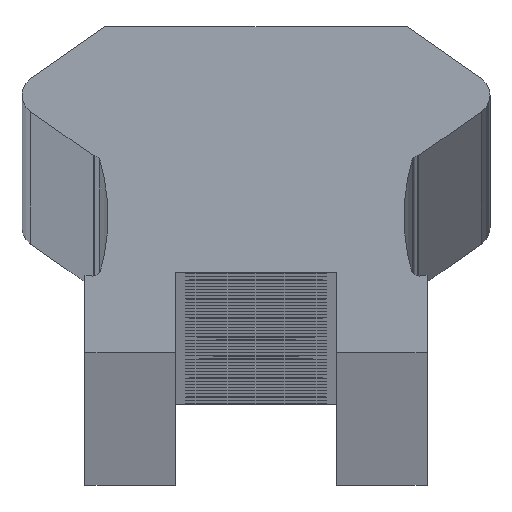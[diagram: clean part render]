
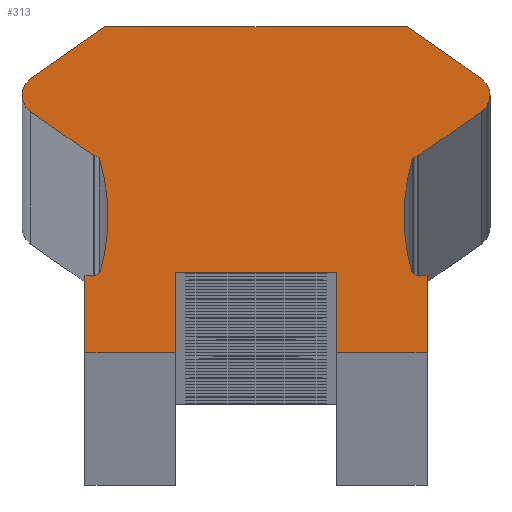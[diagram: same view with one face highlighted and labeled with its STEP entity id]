
A CAD part, top view. The second image highlights one B-rep face of the part: STEP entity #313.
In plain terms, the highlighted planar face has unit normal (0, 0, 1).
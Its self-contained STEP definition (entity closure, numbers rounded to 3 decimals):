
#313=ADVANCED_FACE('',(#918),#919,.T.);
#918=FACE_OUTER_BOUND('',#1524,.T.);
#919=PLANE('',#1525);
#1524=EDGE_LOOP('',(#3362,#3363,#3364,#3365,#3366,#3367,#3368,#3369,#3370,#3371,#3372,#3373,#3374,#3375,#3376,#3377,#3378,#3379,#3380,#3381,#3382,#3383,#3384,#3385,#3386,#3387,#3388,#3389));
#1525=AXIS2_PLACEMENT_3D('',#3390,#3391,#3392);
#3362=ORIENTED_EDGE('',*,*,#3944,.F.);
#3363=ORIENTED_EDGE('',*,*,#4010,.F.);
#3364=ORIENTED_EDGE('',*,*,#3427,.F.);
#3365=ORIENTED_EDGE('',*,*,#4008,.F.);
#3366=ORIENTED_EDGE('',*,*,#4005,.F.);
#3367=ORIENTED_EDGE('',*,*,#4002,.F.);
#3368=ORIENTED_EDGE('',*,*,#3429,.F.);
#3369=ORIENTED_EDGE('',*,*,#4001,.F.);
#3370=ORIENTED_EDGE('',*,*,#3997,.F.);
#3371=ORIENTED_EDGE('',*,*,#3994,.F.);
#3372=ORIENTED_EDGE('',*,*,#3991,.F.);
#3373=ORIENTED_EDGE('',*,*,#3988,.F.);
#3374=ORIENTED_EDGE('',*,*,#3435,.F.);
#3375=ORIENTED_EDGE('',*,*,#3986,.F.);
#3376=ORIENTED_EDGE('',*,*,#3983,.F.);
#3377=ORIENTED_EDGE('',*,*,#3980,.F.);
#3378=ORIENTED_EDGE('',*,*,#3977,.F.);
#3379=ORIENTED_EDGE('',*,*,#3974,.F.);
#3380=ORIENTED_EDGE('',*,*,#3971,.F.);
#3381=ORIENTED_EDGE('',*,*,#3968,.F.);
#3382=ORIENTED_EDGE('',*,*,#3965,.F.);
#3383=ORIENTED_EDGE('',*,*,#3962,.F.);
#3384=ORIENTED_EDGE('',*,*,#3959,.F.);
#3385=ORIENTED_EDGE('',*,*,#3956,.F.);
#3386=ORIENTED_EDGE('',*,*,#3437,.F.);
#3387=ORIENTED_EDGE('',*,*,#3955,.F.);
#3388=ORIENTED_EDGE('',*,*,#3951,.F.);
#3389=ORIENTED_EDGE('',*,*,#3948,.F.);
#3390=CARTESIAN_POINT('',(0.,4.049,1886.0));
#3391=DIRECTION('',(0.0,0.0,1.0));
#3392=DIRECTION('',(1.0,0.0,0.0));
#3427=EDGE_CURVE('',#4017,#4013,#4019,.T.);
#3429=EDGE_CURVE('',#4020,#4023,#4024,.T.);
#3435=EDGE_CURVE('',#4033,#4029,#4035,.T.);
#3437=EDGE_CURVE('',#4036,#4039,#4040,.T.);
#3944=EDGE_CURVE('',#4884,#4885,#4886,.T.);
#3948=EDGE_CURVE('',#4885,#4892,#4893,.T.);
#3951=EDGE_CURVE('',#4892,#4897,#4898,.T.);
#3955=EDGE_CURVE('',#4897,#4036,#4903,.T.);
#3956=EDGE_CURVE('',#4039,#4904,#4905,.T.);
#3959=EDGE_CURVE('',#4904,#4909,#4910,.T.);
#3962=EDGE_CURVE('',#4909,#4914,#4915,.T.);
#3965=EDGE_CURVE('',#4914,#4919,#4920,.T.);
#3968=EDGE_CURVE('',#4919,#4924,#4925,.T.);
#3971=EDGE_CURVE('',#4924,#4929,#4930,.T.);
#3974=EDGE_CURVE('',#4929,#4934,#4935,.T.);
#3977=EDGE_CURVE('',#4934,#4939,#4940,.T.);
#3980=EDGE_CURVE('',#4939,#4944,#4945,.T.);
#3983=EDGE_CURVE('',#4944,#4949,#4950,.T.);
#3986=EDGE_CURVE('',#4949,#4033,#4954,.T.);
#3988=EDGE_CURVE('',#4029,#4956,#4957,.T.);
#3991=EDGE_CURVE('',#4956,#4961,#4962,.T.);
#3994=EDGE_CURVE('',#4961,#4966,#4967,.T.);
#3997=EDGE_CURVE('',#4966,#4971,#4972,.T.);
#4001=EDGE_CURVE('',#4971,#4020,#4977,.T.);
#4002=EDGE_CURVE('',#4023,#4978,#4979,.T.);
#4005=EDGE_CURVE('',#4978,#4983,#4984,.T.);
#4008=EDGE_CURVE('',#4983,#4017,#4988,.T.);
#4010=EDGE_CURVE('',#4013,#4884,#4990,.T.);
#4013=VERTEX_POINT('',#4993);
#4017=VERTEX_POINT('',#4998);
#4019=CIRCLE('',#5001,0.5);
#4020=VERTEX_POINT('',#5002);
#4023=VERTEX_POINT('',#5006);
#4024=CIRCLE('',#5007,0.5);
#4029=VERTEX_POINT('',#5013);
#4033=VERTEX_POINT('',#5018);
#4035=CIRCLE('',#5021,5.045);
#4036=VERTEX_POINT('',#5022);
#4039=VERTEX_POINT('',#5026);
#4040=CIRCLE('',#5027,5.045);
#4884=VERTEX_POINT('',#6040);
#4885=VERTEX_POINT('',#6041);
#4886=LINE('',#6042,#6043);
#4892=VERTEX_POINT('',#6052);
#4893=LINE('',#6053,#6054);
#4897=VERTEX_POINT('',#6060);
#4898=CIRCLE('',#6061,0.158);
#4903=CIRCLE('',#6067,5.045);
#4904=VERTEX_POINT('',#6068);
#4905=CIRCLE('',#6069,0.181);
#4909=VERTEX_POINT('',#6074);
#4910=LINE('',#6075,#6076);
#4914=VERTEX_POINT('',#6082);
#4915=LINE('',#6083,#6084);
#4919=VERTEX_POINT('',#6090);
#4920=LINE('',#6091,#6092);
#4924=VERTEX_POINT('',#6098);
#4925=LINE('',#6099,#6100);
#4929=VERTEX_POINT('',#6106);
#4930=LINE('',#6107,#6108);
#4934=VERTEX_POINT('',#6114);
#4935=LINE('',#6115,#6116);
#4939=VERTEX_POINT('',#6122);
#4940=LINE('',#6123,#6124);
#4944=VERTEX_POINT('',#6130);
#4945=LINE('',#6131,#6132);
#4949=VERTEX_POINT('',#6138);
#4950=LINE('',#6139,#6140);
#4954=CIRCLE('',#6146,0.181);
#4956=VERTEX_POINT('',#6148);
#4957=CIRCLE('',#6149,5.045);
#4961=VERTEX_POINT('',#6154);
#4962=CIRCLE('',#6155,0.158);
#4966=VERTEX_POINT('',#6160);
#4967=LINE('',#6161,#6162);
#4971=VERTEX_POINT('',#6168);
#4972=LINE('',#6169,#6170);
#4977=CIRCLE('',#6177,0.5);
#4978=VERTEX_POINT('',#6178);
#4979=LINE('',#6179,#6180);
#4983=VERTEX_POINT('',#6186);
#4984=LINE('',#6187,#6188);
#4988=LINE('',#6194,#6195);
#4990=CIRCLE('',#6198,0.5);
#4993=CARTESIAN_POINT('',(5.813,6.4,1886.0));
#4998=CARTESIAN_POINT('',(5.6,6.81,1886.0));
#5001=AXIS2_PLACEMENT_3D('',#6205,#6206,#6207);
#5002=CARTESIAN_POINT('',(-5.813,6.4,1886.0));
#5006=CARTESIAN_POINT('',(-5.6,6.81,1886.0));
#5007=AXIS2_PLACEMENT_3D('',#6209,#6210,#6211);
#5013=CARTESIAN_POINT('',(-3.679,3.382,1886.0));
#5018=CARTESIAN_POINT('',(-3.864,2.027,1886.0));
#5021=AXIS2_PLACEMENT_3D('',#6221,#6222,#6223);
#5022=CARTESIAN_POINT('',(3.679,3.382,1886.0));
#5026=CARTESIAN_POINT('',(3.864,2.027,1886.0));
#5027=AXIS2_PLACEMENT_3D('',#6225,#6226,#6227);
#6040=CARTESIAN_POINT('',(5.6,5.99,1886.0));
#6041=CARTESIAN_POINT('',(4.043,4.9,1886.0));
#6042=CARTESIAN_POINT('',(5.6,5.99,1886.0));
#6043=VECTOR('',#7408,1.0);
#6052=CARTESIAN_POINT('',(4.,4.9,1886.0));
#6053=CARTESIAN_POINT('',(4.,4.9,1886.0));
#6054=VECTOR('',#7412,1.0);
#6060=CARTESIAN_POINT('',(3.887,4.817,1886.0));
#6061=AXIS2_PLACEMENT_3D('',#7415,#7416,#7417);
#6067=AXIS2_PLACEMENT_3D('',#7425,#7426,#7427);
#6068=CARTESIAN_POINT('',(4.058,1.905,1886.0));
#6069=AXIS2_PLACEMENT_3D('',#7428,#7429,#7430);
#6074=CARTESIAN_POINT('',(4.25,1.922,1886.0));
#6075=CARTESIAN_POINT('',(4.25,1.922,1886.0));
#6076=VECTOR('',#7435,1.0);
#6082=CARTESIAN_POINT('',(4.25,0.0,1886.0));
#6083=CARTESIAN_POINT('',(4.25,1.922,1886.0));
#6084=VECTOR('',#7438,1.0);
#6090=CARTESIAN_POINT('',(2.0,0.0,1886.0));
#6091=CARTESIAN_POINT('',(2.0,0.0,1886.0));
#6092=VECTOR('',#7441,1.0);
#6098=CARTESIAN_POINT('',(2.0,2.0,1886.0));
#6099=CARTESIAN_POINT('',(2.0,2.0,1886.0));
#6100=VECTOR('',#7444,1.0);
#6106=CARTESIAN_POINT('',(-2.0,2.0,1886.0));
#6107=CARTESIAN_POINT('',(-2.0,2.0,1886.0));
#6108=VECTOR('',#7447,1.0);
#6114=CARTESIAN_POINT('',(-2.0,0.0,1886.0));
#6115=CARTESIAN_POINT('',(-2.0,0.0,1886.0));
#6116=VECTOR('',#7450,1.0);
#6122=CARTESIAN_POINT('',(-4.25,0.0,1886.0));
#6123=CARTESIAN_POINT('',(-4.25,0.0,1886.0));
#6124=VECTOR('',#7453,1.0);
#6130=CARTESIAN_POINT('',(-4.25,1.922,1886.0));
#6131=CARTESIAN_POINT('',(-4.25,1.922,1886.0));
#6132=VECTOR('',#7456,1.0);
#6138=CARTESIAN_POINT('',(-4.058,1.905,1886.0));
#6139=CARTESIAN_POINT('',(-4.25,1.922,1886.0));
#6140=VECTOR('',#7459,1.0);
#6146=AXIS2_PLACEMENT_3D('',#7462,#7463,#7464);
#6148=CARTESIAN_POINT('',(-3.887,4.817,1886.0));
#6149=AXIS2_PLACEMENT_3D('',#7468,#7469,#7470);
#6154=CARTESIAN_POINT('',(-4.,4.9,1886.0));
#6155=AXIS2_PLACEMENT_3D('',#7475,#7476,#7477);
#6160=CARTESIAN_POINT('',(-4.043,4.9,1886.0));
#6161=CARTESIAN_POINT('',(-4.,4.9,1886.0));
#6162=VECTOR('',#7482,1.0);
#6168=CARTESIAN_POINT('',(-5.6,5.99,1886.0));
#6169=CARTESIAN_POINT('',(-5.6,5.99,1886.0));
#6170=VECTOR('',#7485,1.0);
#6177=AXIS2_PLACEMENT_3D('',#7491,#7492,#7493);
#6178=CARTESIAN_POINT('',(-3.757,8.1,1886.0));
#6179=CARTESIAN_POINT('',(-3.757,8.1,1886.0));
#6180=VECTOR('',#7494,1.0);
#6186=CARTESIAN_POINT('',(3.757,8.1,1886.0));
#6187=CARTESIAN_POINT('',(3.757,8.1,1886.0));
#6188=VECTOR('',#7497,1.0);
#6194=CARTESIAN_POINT('',(5.6,6.81,1886.0));
#6195=VECTOR('',#7500,1.0);
#6198=AXIS2_PLACEMENT_3D('',#7502,#7503,#7504);
#6205=CARTESIAN_POINT('',(5.313,6.4,1886.0));
#6206=DIRECTION('',(0.0,0.0,-1.0));
#6207=DIRECTION('',(1.0,0.0,0.0));
#6209=CARTESIAN_POINT('',(-5.313,6.4,1886.0));
#6210=DIRECTION('',(0.0,0.0,-1.0));
#6211=DIRECTION('',(1.0,0.0,0.0));
#6221=CARTESIAN_POINT('',(-8.724,3.382,1886.0));
#6222=DIRECTION('',(0.0,0.0,1.0));
#6223=DIRECTION('',(1.0,0.0,0.0));
#6225=CARTESIAN_POINT('',(8.724,3.382,1886.0));
#6226=DIRECTION('',(0.0,0.0,1.0));
#6227=DIRECTION('',(1.0,0.0,0.0));
#7408=DIRECTION('',(-0.819,-0.574,0.0));
#7412=DIRECTION('',(-1.0,-0.0,-0.0));
#7415=CARTESIAN_POINT('',(4.028,4.744,1886.0));
#7416=DIRECTION('',(0.0,0.0,1.0));
#7417=DIRECTION('',(1.0,0.0,0.0));
#7425=CARTESIAN_POINT('',(8.724,3.382,1886.0));
#7426=DIRECTION('',(0.0,0.0,1.0));
#7427=DIRECTION('',(1.0,0.0,0.0));
#7428=CARTESIAN_POINT('',(4.036,2.085,1886.0));
#7429=DIRECTION('',(0.0,0.0,1.0));
#7430=DIRECTION('',(1.0,0.0,0.0));
#7435=DIRECTION('',(0.996,0.087,0.0));
#7438=DIRECTION('',(0.0,-1.0,0.0));
#7441=DIRECTION('',(-1.0,-0.0,-0.0));
#7444=DIRECTION('',(0.0,1.0,0.0));
#7447=DIRECTION('',(-1.0,-0.0,-0.0));
#7450=DIRECTION('',(-0.0,-1.0,-0.0));
#7453=DIRECTION('',(-1.0,-0.0,-0.0));
#7456=DIRECTION('',(0.0,1.0,0.0));
#7459=DIRECTION('',(0.996,-0.087,0.0));
#7462=CARTESIAN_POINT('',(-4.036,2.085,1886.0));
#7463=DIRECTION('',(0.0,0.0,1.0));
#7464=DIRECTION('',(1.0,0.0,0.0));
#7468=CARTESIAN_POINT('',(-8.724,3.382,1886.0));
#7469=DIRECTION('',(0.0,0.0,1.0));
#7470=DIRECTION('',(1.0,0.0,0.0));
#7475=CARTESIAN_POINT('',(-4.028,4.744,1886.0));
#7476=DIRECTION('',(0.0,0.0,1.0));
#7477=DIRECTION('',(1.0,0.0,0.0));
#7482=DIRECTION('',(-1.0,0.0,0.0));
#7485=DIRECTION('',(-0.819,0.574,0.0));
#7491=CARTESIAN_POINT('',(-5.313,6.4,1886.0));
#7492=DIRECTION('',(0.0,0.0,-1.0));
#7493=DIRECTION('',(1.0,0.0,0.0));
#7494=DIRECTION('',(0.819,0.574,0.0));
#7497=DIRECTION('',(1.0,0.0,0.0));
#7500=DIRECTION('',(0.819,-0.574,0.0));
#7502=CARTESIAN_POINT('',(5.313,6.4,1886.0));
#7503=DIRECTION('',(0.0,0.0,-1.0));
#7504=DIRECTION('',(1.0,0.0,0.0));
